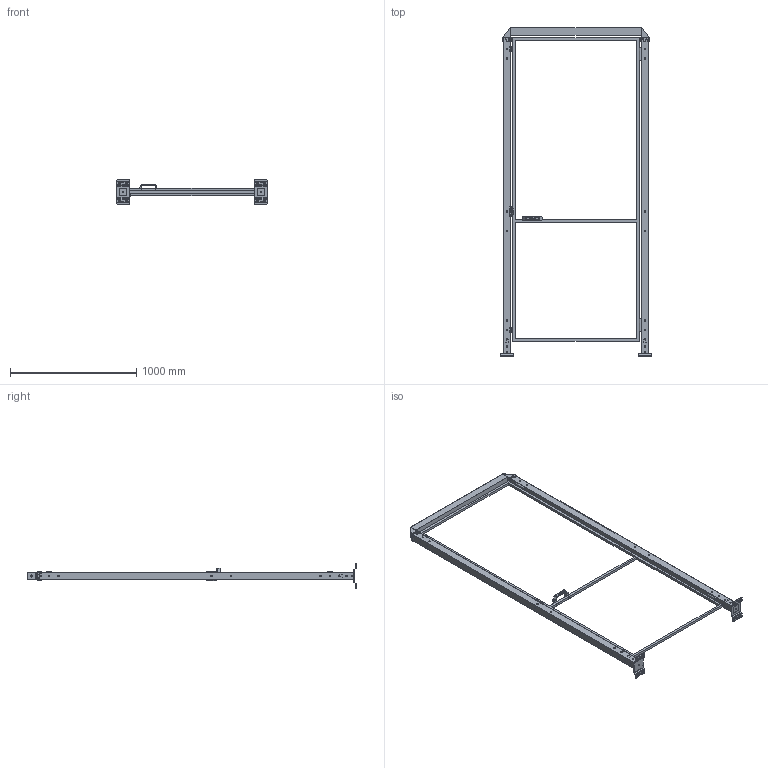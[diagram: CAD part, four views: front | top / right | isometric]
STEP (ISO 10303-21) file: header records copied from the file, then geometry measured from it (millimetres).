
FILE_DESCRIPTION(('STEP AP242'),'1');
FILE_NAME('vfda_bscndr2_10002520.stp','2024-08-08T08:06:14',('TraceParts'),('TraceParts S.A.'),'Spatial InterOp 3D',' ',' ');
FILE_SCHEMA(('AP242_MANAGED_MODEL_BASED_3D_ENGINEERING_MIM_LF {1 0 10303 442 1 1 4}'));
Length unit declared in the file: millimetre
Products named in the file (1): vfda_bscndr2_10002520_1
Bounding box: 1190 x 2601 x 192 mm (x, y, z)
Volume: 5629932.7 mm3; surface area: 3688436.2 mm2
Topology: 12 solids, 12 shells, 1874 faces, 5016 edges, 3212 vertices
Faces by surface type: plane 906, cylinder 628, bspline 236, cone 60, torus 40, sphere 4
Entity records: 75648 total; most frequent: CARTESIAN_POINT 13827, ORIENTED_EDGE 10024, DIRECTION 9202, EDGE_CURVE 5012, VERTEX_POINT 3212, LINE 3072, VECTOR 3072, AXIS2_PLACEMENT_3D 3065
